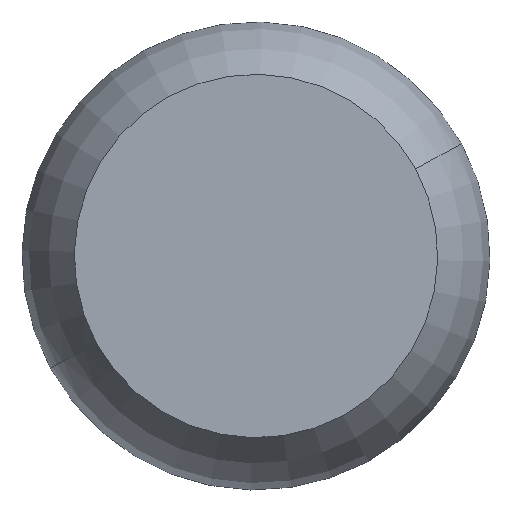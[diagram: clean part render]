
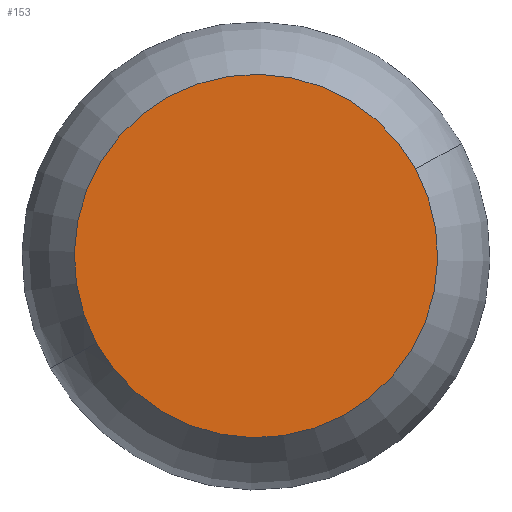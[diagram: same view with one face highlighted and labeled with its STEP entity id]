
A CAD part, front view. The second image highlights one B-rep face of the part: STEP entity #153.
In plain terms, the highlighted planar face has unit normal (0, -1, 0).
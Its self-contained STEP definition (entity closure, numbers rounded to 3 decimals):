
#66=CARTESIAN_POINT('Axis2P3D Location',(0.,0.,0.)) ;
#70=CARTESIAN_POINT('Vertex',(102.677,0.,56.093)) ;
#72=CARTESIAN_POINT('Vertex',(-102.677,0.,-56.093)) ;
#127=CARTESIAN_POINT('Axis2P3D Location',(0.,0.,0.)) ;
#144=CARTESIAN_POINT('Axis2P3D Location',(0.,0.,0.)) ;
#67=DIRECTION('Axis2P3D Direction',(0.,-1.,0.)) ;
#128=DIRECTION('Axis2P3D Direction',(0.,-1.,0.)) ;
#145=DIRECTION('Axis2P3D Direction',(0.,-1.,0.)) ;
#146=DIRECTION('Axis2P3D XDirection',(1.,0.,0.)) ;
#68=AXIS2_PLACEMENT_3D('Circle Axis2P3D',#66,#67,$) ;
#129=AXIS2_PLACEMENT_3D('Circle Axis2P3D',#127,#128,$) ;
#147=AXIS2_PLACEMENT_3D('Plane Axis2P3D',#144,#145,#146) ;
#150=ORIENTED_EDGE('',*,*,#74,.T.) ;
#151=ORIENTED_EDGE('',*,*,#131,.T.) ;
#153=ADVANCED_FACE('PartBody',(#152),#148,.T.) ;
#69=CIRCLE('generated circle',#68,117.) ;
#130=CIRCLE('generated circle',#129,117.) ;
#74=EDGE_CURVE('',#71,#73,#69,.T.) ;
#131=EDGE_CURVE('',#73,#71,#130,.T.) ;
#149=EDGE_LOOP('',(#150,#151)) ;
#152=FACE_OUTER_BOUND('',#149,.T.) ;
#148=PLANE('',#147) ;
#71=VERTEX_POINT('',#70) ;
#73=VERTEX_POINT('',#72) ;
